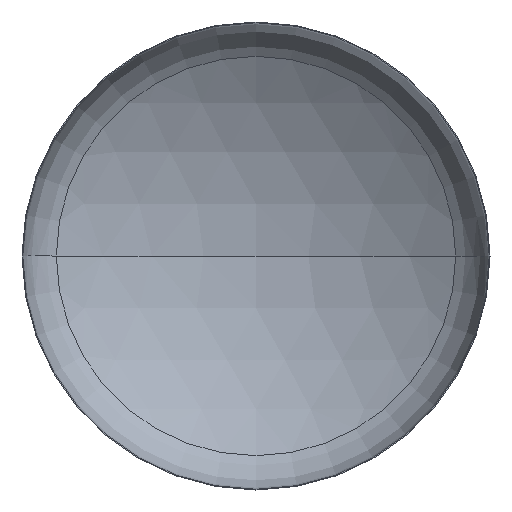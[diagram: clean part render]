
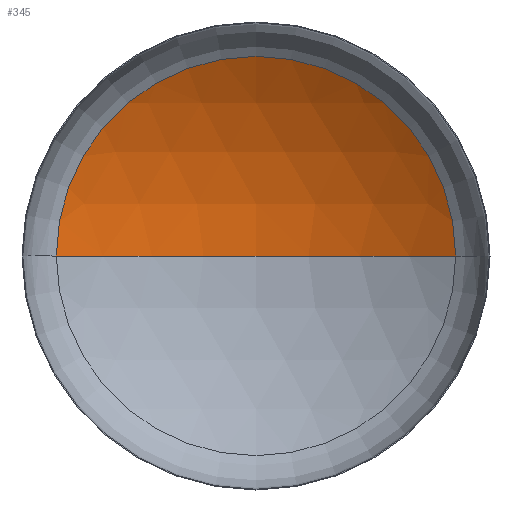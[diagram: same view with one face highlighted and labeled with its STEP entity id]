
A CAD part, front view. The second image highlights one B-rep face of the part: STEP entity #345.
In plain terms, the highlighted spherical face has radius 3040 mm.
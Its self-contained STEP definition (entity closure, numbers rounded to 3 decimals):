
#4 = CARTESIAN_POINT ( 'NONE',  ( 0., -2056.907, 0. ) ) ;
#18 = FACE_OUTER_BOUND ( 'NONE', #33, .T. ) ;
#19 = CARTESIAN_POINT ( 'NONE',  ( 0., 983.093, 0. ) ) ;
#23 = AXIS2_PLACEMENT_3D ( 'NONE', #111, #230, #69 ) ;
#33 = EDGE_LOOP ( 'NONE', ( #91, #253, #214 ) ) ;
#45 = AXIS2_PLACEMENT_3D ( 'NONE', #305, #328, #153 ) ;
#47 = AXIS2_PLACEMENT_3D ( 'NONE', #4, #326, #259 ) ;
#48 = AXIS2_PLACEMENT_3D ( 'NONE', #168, #169, #234 ) ;
#69 = DIRECTION ( 'NONE',  ( -1., 0., 0. ) ) ;
#91 = ORIENTED_EDGE ( 'NONE', *, *, #126, .F. ) ;
#100 = VERTEX_POINT ( 'NONE', #170 ) ;
#102 = EDGE_CURVE ( 'NONE', #181, #100, #404, .T. ) ;
#104 = CIRCLE ( 'NONE', #47, 3040. ) ;
#111 = CARTESIAN_POINT ( 'NONE',  ( 0., -2056.907, 0. ) ) ;
#115 = EDGE_CURVE ( 'NONE', #219, #181, #104, .T. ) ;
#126 = EDGE_CURVE ( 'NONE', #219, #100, #194, .T. ) ;
#153 = DIRECTION ( 'NONE',  ( 1., 0., 0. ) ) ;
#168 = CARTESIAN_POINT ( 'NONE',  ( 0., 514.905, 0. ) ) ;
#169 = DIRECTION ( 'NONE',  ( 0., -1., 0. ) ) ;
#170 = CARTESIAN_POINT ( 'NONE',  ( -1620.921, 514.905, 0. ) ) ;
#181 = VERTEX_POINT ( 'NONE', #275 ) ;
#194 = CIRCLE ( 'NONE', #45, 3040. ) ;
#214 = ORIENTED_EDGE ( 'NONE', *, *, #102, .T. ) ;
#219 = VERTEX_POINT ( 'NONE', #19 ) ;
#230 = DIRECTION ( 'NONE',  ( 0., 0., -1. ) ) ;
#234 = DIRECTION ( 'NONE',  ( 1., 0., 0. ) ) ;
#253 = ORIENTED_EDGE ( 'NONE', *, *, #115, .T. ) ;
#259 = DIRECTION ( 'NONE',  ( -1., 0., 0. ) ) ;
#275 = CARTESIAN_POINT ( 'NONE',  ( 1620.921, 514.905, 0. ) ) ;
#305 = CARTESIAN_POINT ( 'NONE',  ( 0., -2056.907, 0. ) ) ;
#326 = DIRECTION ( 'NONE',  ( 0., 0., -1. ) ) ;
#328 = DIRECTION ( 'NONE',  ( 0., 0., 1. ) ) ;
#345 = ADVANCED_FACE ( 'NONE', ( #18 ), #377, .F. ) ;
#377 = SPHERICAL_SURFACE ( 'NONE', #23, 3040. ) ;
#404 = CIRCLE ( 'NONE', #48, 1620.921 ) ;
